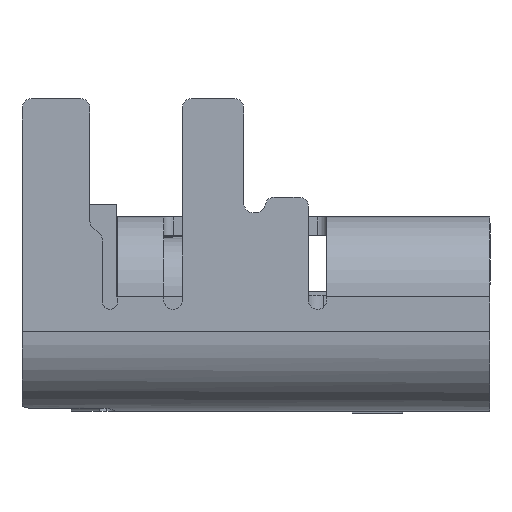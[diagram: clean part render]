
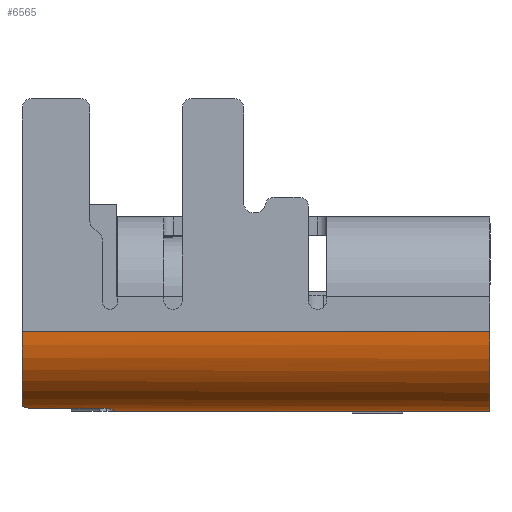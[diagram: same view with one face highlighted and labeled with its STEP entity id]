
A CAD part, left-side view. The second image highlights one B-rep face of the part: STEP entity #6565.
In plain terms, the highlighted cylindrical face has radius 1.3 mm (diameter 2.6 mm), a partial arc.
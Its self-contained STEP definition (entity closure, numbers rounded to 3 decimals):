
#225 = CARTESIAN_POINT ( 'NONE',  ( -3.601, 7.578, -3.087 ) ) ;
#326 = CARTESIAN_POINT ( 'NONE',  ( -4.47, 6.5, -1.86 ) ) ;
#874 = CYLINDRICAL_SURFACE ( 'NONE', #5558, 1.3 ) ;
#1000 = CARTESIAN_POINT ( 'NONE',  ( -3.514, 6.195, -3.114 ) ) ;
#1092 = VERTEX_POINT ( 'NONE', #2154 ) ;
#1292 = ORIENTED_EDGE ( 'NONE', *, *, #22762, .T. ) ;
#1659 = ORIENTED_EDGE ( 'NONE', *, *, #10905, .T. ) ;
#2154 = CARTESIAN_POINT ( 'NONE',  ( -3.338, 6.1, -3.149 ) ) ;
#2765 = CARTESIAN_POINT ( 'NONE',  ( -3.535, 6.3, -3.108 ) ) ;
#2776 = DIRECTION ( 'NONE',  ( 0., -1., 0. ) ) ;
#4093 = VECTOR ( 'NONE', #11477, 1000. ) ;
#4974 = CARTESIAN_POINT ( 'NONE',  ( -3.17, 6.5, -1.86 ) ) ;
#5558 = AXIS2_PLACEMENT_3D ( 'NONE', #4974, #2776, #25221 ) ;
#5560 = DIRECTION ( 'NONE',  ( 0., -1., 0. ) ) ;
#6066 = VERTEX_POINT ( 'NONE', #6493 ) ;
#6165 = CARTESIAN_POINT ( 'NONE',  ( -3.548, 7.516, -3.104 ) ) ;
#6286 = AXIS2_PLACEMENT_3D ( 'NONE', #10907, #24547, #20275 ) ;
#6493 = CARTESIAN_POINT ( 'NONE',  ( -4.47, 7.6, -1.86 ) ) ;
#6565 = ADVANCED_FACE ( 'NONE', ( #16129 ), #874, .T. ) ;
#6640 = DIRECTION ( 'NONE',  ( 0., -1., 0. ) ) ;
#6960 = CARTESIAN_POINT ( 'NONE',  ( -3.576, 7.557, -3.095 ) ) ;
#7077 = CARTESIAN_POINT ( 'NONE',  ( -3.17, 6.1, -3.16 ) ) ;
#7205 = CIRCLE ( 'NONE', #14248, 1.3 ) ;
#7260 = CARTESIAN_POINT ( 'NONE',  ( -3.535, 7.45, -3.108 ) ) ;
#7595 = ORIENTED_EDGE ( 'NONE', *, *, #26722, .T. ) ;
#7772 = CARTESIAN_POINT ( 'NONE',  ( -3.17, 7.6, -1.86 ) ) ;
#7834 = ORIENTED_EDGE ( 'NONE', *, *, #14486, .T. ) ;
#8483 = B_SPLINE_CURVE_WITH_KNOTS ( 'NONE', 3,
 ( #9604, #22499, #18544, #20303, #27501, #225, #27062, #6960, #18689, #18982, #6165, #21322, #21173, #14439, #14151, #25586 ),
 .UNSPECIFIED., .F., .F.,
 ( 4, 3, 3, 3, 3, 4 ),
 ( 0., 0., 0., 0., 0., 0. ),
 .UNSPECIFIED. ) ;
#9106 = B_SPLINE_CURVE_WITH_KNOTS ( 'NONE', 3,
 ( #2765, #18743, #1000, #9508, #16544, #16824 ),
 .UNSPECIFIED., .F., .F.,
 ( 4, 2, 4 ),
 ( 0., 0., 0. ),
 .UNSPECIFIED. ) ;
#9508 = CARTESIAN_POINT ( 'NONE',  ( -3.442, 6.121, -3.132 ) ) ;
#9604 = CARTESIAN_POINT ( 'NONE',  ( -3.676, 7.6, -3.057 ) ) ;
#9822 = CARTESIAN_POINT ( 'NONE',  ( -3.535, 6.5, -3.108 ) ) ;
#10265 = EDGE_CURVE ( 'NONE', #11984, #6066, #11185, .T. ) ;
#10447 = VECTOR ( 'NONE', #27808, 1000. ) ;
#10890 = CIRCLE ( 'NONE', #19781, 1.3 ) ;
#10905 = EDGE_CURVE ( 'NONE', #21319, #24288, #14075, .T. ) ;
#10907 = CARTESIAN_POINT ( 'NONE',  ( -3.17, 0., -1.86 ) ) ;
#11185 = LINE ( 'NONE', #326, #4093 ) ;
#11283 = ORIENTED_EDGE ( 'NONE', *, *, #24881, .T. ) ;
#11477 = DIRECTION ( 'NONE',  ( 0., 1., 0. ) ) ;
#11984 = VERTEX_POINT ( 'NONE', #23212 ) ;
#12110 = LINE ( 'NONE', #18852, #10447 ) ;
#13114 = ORIENTED_EDGE ( 'NONE', *, *, #10265, .T. ) ;
#13685 = CARTESIAN_POINT ( 'NONE',  ( -3.17, 6.1, -1.86 ) ) ;
#14075 = LINE ( 'NONE', #9822, #17216 ) ;
#14151 = CARTESIAN_POINT ( 'NONE',  ( -3.535, 7.461, -3.108 ) ) ;
#14248 = AXIS2_PLACEMENT_3D ( 'NONE', #7772, #5560, #16994 ) ;
#14439 = CARTESIAN_POINT ( 'NONE',  ( -3.536, 7.473, -3.107 ) ) ;
#14486 = EDGE_CURVE ( 'NONE', #26317, #26180, #12110, .T. ) ;
#14507 = CARTESIAN_POINT ( 'NONE',  ( -3.535, 6.3, -3.108 ) ) ;
#15638 = EDGE_CURVE ( 'NONE', #11984, #26180, #25955, .T. ) ;
#16129 = FACE_OUTER_BOUND ( 'NONE', #21560, .T. ) ;
#16544 = CARTESIAN_POINT ( 'NONE',  ( -3.391, 6.1, -3.142 ) ) ;
#16824 = CARTESIAN_POINT ( 'NONE',  ( -3.338, 6.1, -3.149 ) ) ;
#16950 = EDGE_CURVE ( 'NONE', #6066, #17466, #7205, .T. ) ;
#16994 = DIRECTION ( 'NONE',  ( 0., 0., -1. ) ) ;
#17216 = VECTOR ( 'NONE', #18761, 1000. ) ;
#17466 = VERTEX_POINT ( 'NONE', #19455 ) ;
#18212 = DIRECTION ( 'NONE',  ( 0., 0., -1. ) ) ;
#18544 = CARTESIAN_POINT ( 'NONE',  ( -3.645, 7.597, -3.07 ) ) ;
#18689 = CARTESIAN_POINT ( 'NONE',  ( -3.565, 7.544, -3.098 ) ) ;
#18743 = CARTESIAN_POINT ( 'NONE',  ( -3.535, 6.247, -3.108 ) ) ;
#18761 = DIRECTION ( 'NONE',  ( 0., -1., 0. ) ) ;
#18852 = CARTESIAN_POINT ( 'NONE',  ( -3.17, 6.5, -3.16 ) ) ;
#18982 = CARTESIAN_POINT ( 'NONE',  ( -3.557, 7.53, -3.101 ) ) ;
#19262 = CARTESIAN_POINT ( 'NONE',  ( -3.17, 0., -3.16 ) ) ;
#19455 = CARTESIAN_POINT ( 'NONE',  ( -3.676, 7.6, -3.057 ) ) ;
#19781 = AXIS2_PLACEMENT_3D ( 'NONE', #13685, #6640, #18212 ) ;
#19782 = ORIENTED_EDGE ( 'NONE', *, *, #15638, .F. ) ;
#20275 = DIRECTION ( 'NONE',  ( 0., 0., -1. ) ) ;
#20303 = CARTESIAN_POINT ( 'NONE',  ( -3.63, 7.592, -3.076 ) ) ;
#21173 = CARTESIAN_POINT ( 'NONE',  ( -3.538, 7.484, -3.107 ) ) ;
#21319 = VERTEX_POINT ( 'NONE', #7260 ) ;
#21322 = CARTESIAN_POINT ( 'NONE',  ( -3.542, 7.5, -3.106 ) ) ;
#21440 = ORIENTED_EDGE ( 'NONE', *, *, #16950, .T. ) ;
#21560 = EDGE_LOOP ( 'NONE', ( #1292, #7834, #19782, #13114, #21440, #11283, #1659, #7595 ) ) ;
#22499 = CARTESIAN_POINT ( 'NONE',  ( -3.661, 7.6, -3.064 ) ) ;
#22762 = EDGE_CURVE ( 'NONE', #1092, #26317, #10890, .T. ) ;
#23212 = CARTESIAN_POINT ( 'NONE',  ( -4.47, 0., -1.86 ) ) ;
#24288 = VERTEX_POINT ( 'NONE', #14507 ) ;
#24547 = DIRECTION ( 'NONE',  ( 0., -1., 0. ) ) ;
#24881 = EDGE_CURVE ( 'NONE', #17466, #21319, #8483, .T. ) ;
#25221 = DIRECTION ( 'NONE',  ( 0., 0., -1. ) ) ;
#25586 = CARTESIAN_POINT ( 'NONE',  ( -3.535, 7.45, -3.108 ) ) ;
#25955 = CIRCLE ( 'NONE', #6286, 1.3 ) ;
#26180 = VERTEX_POINT ( 'NONE', #19262 ) ;
#26317 = VERTEX_POINT ( 'NONE', #7077 ) ;
#26722 = EDGE_CURVE ( 'NONE', #24288, #1092, #9106, .T. ) ;
#27062 = CARTESIAN_POINT ( 'NONE',  ( -3.589, 7.567, -3.091 ) ) ;
#27501 = CARTESIAN_POINT ( 'NONE',  ( -3.615, 7.586, -3.081 ) ) ;
#27808 = DIRECTION ( 'NONE',  ( 0., -1., 0. ) ) ;
